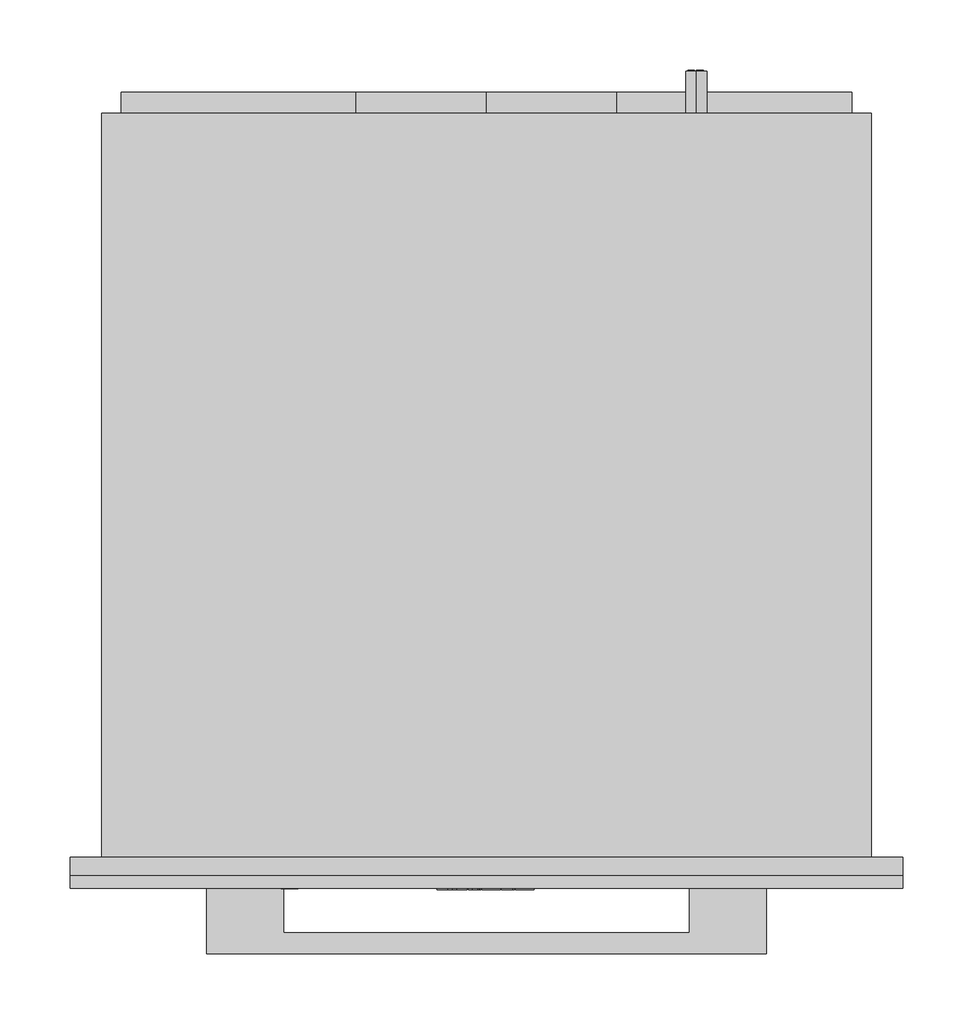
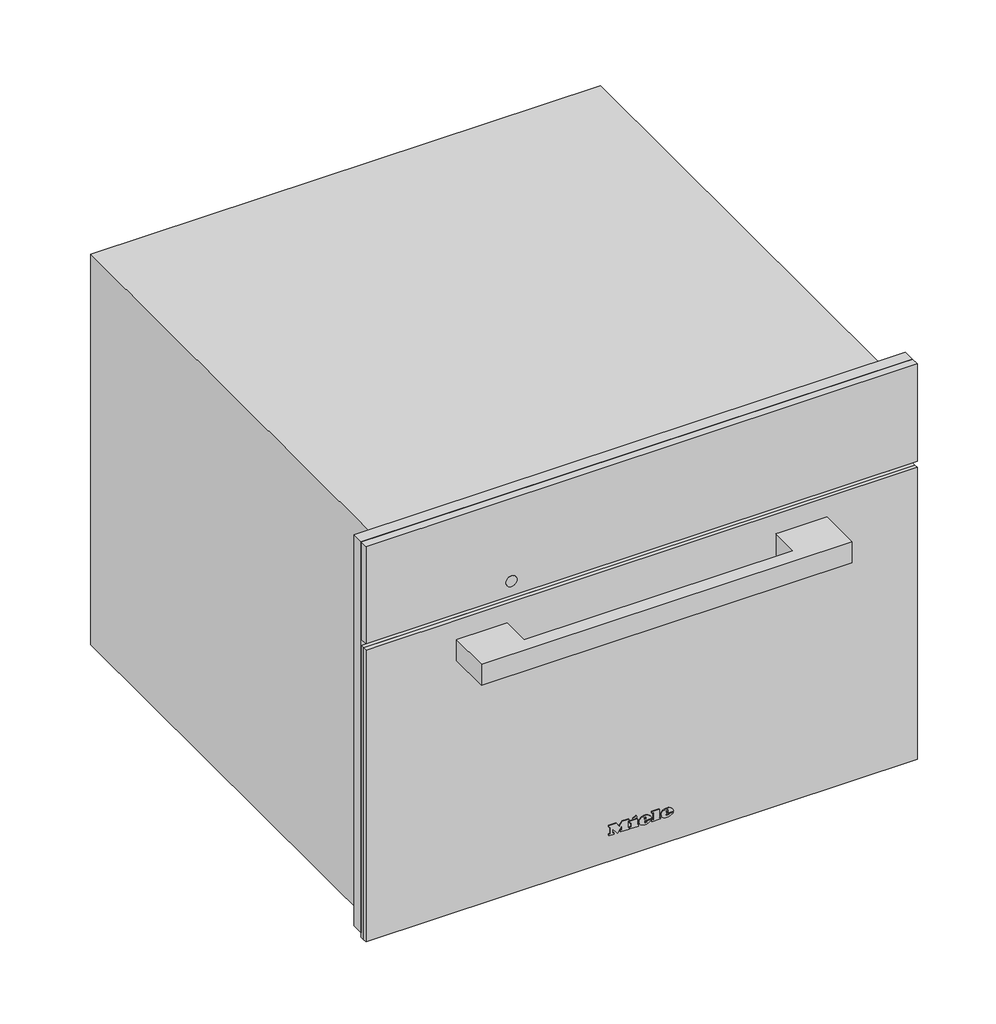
# Not in any storey: 1 proxy.
"""IFC4 building model written with IfcOpenShell, lengths in millimetres."""

import ifcopenshell
import ifcopenshell.guid

model = None  # the IFC model being written
_history = None  # IfcOwnerHistory: only IFC2X3 demands one
_inside = {}  # id of a spatial element -> (the spatial element, [elements in it])
_under = {}  # id of a project, library or spatial element -> (it, [spatial elements below it])
_declared = {}  # id of a project -> (the project, [libraries it declares])
_typed = {}  # id of a type object -> (the type object, [elements of that type])
_made_of = {}  # id of a material, layer set ... -> (it, [elements and type objects made of it])


def new_model(schema):
    """Start an empty IFC model of exactly this schema.

    Asked for "IFC4X3", IfcOpenShell would pick the latest addendum, in which some entities
    have other attributes; the version numbers below select the first issue.
    IFC2X3 requires an IfcOwnerHistory on every rooted entity: one is made here for all.
    """
    global model, _history
    if schema == "IFC4X3":
        model = ifcopenshell.file(schema_version=(4, 3, 0, 0))
    else:
        model = ifcopenshell.file(schema=schema)
    _inside.clear()
    _under.clear()
    _declared.clear()
    _typed.clear()
    _made_of.clear()
    _history = None
    if model.schema == "IFC2X3":
        org = make("IfcOrganization", Name="unknown")
        user = make(
            "IfcPersonAndOrganization",
            ThePerson=make("IfcPerson", FamilyName="unknown"),
            TheOrganization=org,
        )
        app = make(
            "IfcApplication",
            ApplicationDeveloper=org,
            Version="unknown",
            ApplicationFullName="unknown",
            ApplicationIdentifier="unknown",
        )
        _history = make(
            "IfcOwnerHistory",
            OwningUser=user,
            OwningApplication=app,
            ChangeAction="ADDED",
            CreationDate=0,
        )
    return model


def make(cls, **values):
    """One entity of the class cls with the attributes given. An attribute that is None is left unset."""
    return model.create_entity(
        cls, **{name: value for name, value in values.items() if value is not None}
    )


def rooted(cls, **values):
    """An entity with a GlobalId (a new one), such as an element, a storey or a relation."""
    return make(cls, GlobalId=ifcopenshell.guid.new(), OwnerHistory=_history, **values)


def si_unit(unit_type, name, prefix=None):
    """IfcSIUnit, for example si_unit("LENGTHUNIT", "METRE", prefix="MILLI")."""
    return make("IfcSIUnit", UnitType=unit_type, Prefix=prefix, Name=name)


def assignment(units):
    """IfcUnitAssignment: the units of a project."""
    return None if units is None else make("IfcUnitAssignment", Units=units)


def point(xyz):
    """IfcCartesianPoint."""
    return None if xyz is None else make("IfcCartesianPoint", Coordinates=xyz)


def direction(xyz):
    """IfcDirection."""
    return None if xyz is None else make("IfcDirection", DirectionRatios=xyz)


def frame(location, z_axis=None, x_axis=None):
    """IfcAxis2Placement3D, a coordinate frame: its origin and axes. An axis left out is left unset."""
    return make(
        "IfcAxis2Placement3D",
        Location=point(location),
        Axis=direction(z_axis),
        RefDirection=direction(x_axis),
    )


def frame_2d(location, x_axis=None):
    """IfcAxis2Placement2D, a coordinate frame in the plane: its origin and x axis."""
    return make(
        "IfcAxis2Placement2D", Location=point(location), RefDirection=direction(x_axis)
    )


def origin():
    """The frame at (0, 0, 0) with its axes left unset."""
    return frame((0.0, 0.0, 0.0))


def place(relative_to, where):
    """IfcLocalPlacement: puts the frame where relative to a parent placement (None: the world)."""
    return make(
        "IfcLocalPlacement", PlacementRelTo=relative_to, RelativePlacement=where
    )


def context(
    kind, dimensions, precision=None, world=None, true_north=None, identifier=None
):
    """IfcGeometricRepresentationContext, for example the 3D "Model" context."""
    return make(
        "IfcGeometricRepresentationContext",
        ContextIdentifier=identifier,
        ContextType=kind,
        CoordinateSpaceDimension=dimensions,
        Precision=precision,
        WorldCoordinateSystem=world,
        TrueNorth=true_north,
    )


def project(units=None, contexts=None):
    """IfcProject with its units and contexts."""
    return rooted(
        "IfcProject",
        Name="project",
        RepresentationContexts=contexts,
        UnitsInContext=assignment(units),
    )


def spatial(cls, under=None, at=None, **own):
    """A site, building, storey or space (cls), placed at a placement, below another one or the project."""
    s = rooted(cls, ObjectPlacement=at, **own)
    if under is not None:
        _under.setdefault(under.id(), (under, []))[1].append(s)
    return s


def polyline(points):
    """IfcPolyline through the points."""
    return make("IfcPolyline", Points=[point(p) for p in points])


def circle_curve(where, radius):
    """IfcCircle in the frame where."""
    return make("IfcCircle", Position=where, Radius=radius)


def ellipse_curve(where, semi_axis1, semi_axis2):
    """IfcEllipse in the frame where."""
    return make(
        "IfcEllipse", Position=where, SemiAxis1=semi_axis1, SemiAxis2=semi_axis2
    )


def trimmed(basis, trim1, trim2, sense, master):
    """IfcTrimmedCurve: the piece of a basis curve between two trims."""
    return make(
        "IfcTrimmedCurve",
        BasisCurve=basis,
        Trim1=trim1,
        Trim2=trim2,
        SenseAgreement=sense,
        MasterRepresentation=master,
    )


def segment(curve, same_sense, transition):
    """IfcCompositeCurveSegment."""
    return make(
        "IfcCompositeCurveSegment",
        Transition=transition,
        SameSense=same_sense,
        ParentCurve=curve,
    )


def composite_curve(segments, self_intersect=None):
    """IfcCompositeCurve: segments joined end to end."""
    return make("IfcCompositeCurve", Segments=segments, SelfIntersect=self_intersect)


def outline(outer, holes=None, kind="AREA"):
    """IfcArbitraryClosedProfileDef: a profile drawn as a closed curve; with holes, ...WithVoids."""
    if holes is None:
        return make("IfcArbitraryClosedProfileDef", ProfileType=kind, OuterCurve=outer)
    return make(
        "IfcArbitraryProfileDefWithVoids",
        ProfileType=kind,
        OuterCurve=outer,
        InnerCurves=holes,
    )


def extrude(swept, where, along, depth):
    """IfcExtrudedAreaSolid: the profile swept, set in the frame where, extruded along a direction by depth."""
    return make(
        "IfcExtrudedAreaSolid",
        SweptArea=swept,
        Position=where,
        ExtrudedDirection=direction(along),
        Depth=depth,
    )


def faces_of(points, faces, orient=None, outer=None):
    """IfcFace entities. A face is a list of loops; a loop is a list of indices into points, from 0.

    orient and outer hold one flag for each loop. By default every Orientation is true, the
    first loop of a face is its IfcFaceOuterBound and the others are IfcFaceBound.
    """
    made = []
    for i, loops in enumerate(faces):
        bounds = []
        for j, loop in enumerate(loops):
            is_outer = j == 0 if outer is None else outer[i][j]
            bounds.append(
                make(
                    "IfcFaceOuterBound" if is_outer else "IfcFaceBound",
                    Bound=make("IfcPolyLoop", Polygon=[points[k] for k in loop]),
                    Orientation=True if orient is None else orient[i][j],
                )
            )
        made.append(make("IfcFace", Bounds=bounds))
    return made


def faceted_brep(points, faces, orient=None, outer=None, voids=None):
    """IfcFacetedBrep: a solid bounded by flat faces; with voids (closed shells), ...WithVoids."""
    shared = [point(p) for p in points]
    hull = make("IfcClosedShell", CfsFaces=faces_of(shared, faces, orient, outer))
    if voids is None:
        return make("IfcFacetedBrep", Outer=hull)
    return make(
        "IfcFacetedBrepWithVoids",
        Outer=hull,
        Voids=[
            make(cls, CfsFaces=faces_of(shared, fs, o, b)) for cls, fs, o, b in voids
        ],
    )


def shape(context_of_items, identifier, shape_type, items):
    """IfcShapeRepresentation: the items that make up one representation, for example the "Body"."""
    return make(
        "IfcShapeRepresentation",
        ContextOfItems=context_of_items,
        RepresentationIdentifier=identifier,
        RepresentationType=shape_type,
        Items=items,
    )


def source(mapping_origin, context_of_items, identifier, shape_type, items):
    """IfcRepresentationMap: a shape defined once, which mapped items show again and again."""
    return make(
        "IfcRepresentationMap",
        MappingOrigin=mapping_origin,
        MappedRepresentation=shape(context_of_items, identifier, shape_type, items),
    )


def transform(
    local_origin,
    x_axis=None,
    y_axis=None,
    z_axis=None,
    scale=None,
    scale2=None,
    scale3=None,
    uniform=True,
):
    """IfcCartesianTransformationOperator3D, or its non-uniform kind. x_axis, y_axis, z_axis: its Axis1, 2, 3."""
    if uniform:
        return make(
            "IfcCartesianTransformationOperator3D",
            Axis1=direction(x_axis),
            Axis2=direction(y_axis),
            LocalOrigin=point(local_origin),
            Scale=scale,
            Axis3=direction(z_axis),
        )
    return make(
        "IfcCartesianTransformationOperator3DnonUniform",
        Axis1=direction(x_axis),
        Axis2=direction(y_axis),
        LocalOrigin=point(local_origin),
        Scale=scale,
        Axis3=direction(z_axis),
        Scale2=scale2,
        Scale3=scale3,
    )


def mapped(mapping_source, mapping_target):
    """IfcMappedItem: shows the shape of a source again, moved by a transform."""
    return make(
        "IfcMappedItem", MappingSource=mapping_source, MappingTarget=mapping_target
    )


def made_of(thing, what):
    """Note that an element or type object is made of a material, layer set ...; save() writes the relation."""
    if what is not None:
        _made_of.setdefault(what.id(), (what, []))[1].append(thing)
    return thing


def element(
    cls,
    number,
    at=None,
    inside=None,
    cuts=None,
    type_object=None,
    material=None,
    context=None,
    identifier="Body",
    shape_type=None,
    held_by="IfcProductDefinitionShape",
    body=None,
    shapes=None,
    **own,
):
    """One element of the class cls, such as IfcWall. Its Tag is "e" and its number.

    at: its placement. inside: the storey or other place that contains it. cuts: it is an
    opening in that element (IfcRelVoidsElement). A single representation is given by context,
    identifier, shape_type and body (its items); several are given by shapes. held_by: the class
    of the entity that holds the representations. save() writes the other relations.
    """
    e = rooted(cls, Tag="e%d" % number, ObjectPlacement=at, **own)
    if body is not None:
        shapes = [shape(context, identifier, shape_type, body)]
    if shapes is not None:
        e.Representation = make(held_by, Representations=shapes)
    if inside is not None:
        _inside.setdefault(inside.id(), (inside, []))[1].append(e)
    if cuts is not None:
        rooted(
            "IfcRelVoidsElement", RelatingBuildingElement=cuts, RelatedOpeningElement=e
        )
    if type_object is not None:
        _typed.setdefault(type_object.id(), (type_object, []))[1].append(e)
    return made_of(e, material)


def aggregate(whole, parts):
    """IfcRelAggregates: a whole, such as a stair, and the parts it consists of."""
    return rooted("IfcRelAggregates", RelatingObject=whole, RelatedObjects=parts)


def save(model, path):
    """Write the relations noted so far, then the file.

    IfcRelAggregates (storeys below a building ...), IfcRelContainedInSpatialStructure (elements
    in a storey), IfcRelDefinesByType, IfcRelAssociatesMaterial and IfcRelDeclares: one each for
    every whole, place, type object, material and project.
    """
    for whole, parts in _under.values():
        aggregate(whole, parts)
    for where, things in _inside.values():
        rooted(
            "IfcRelContainedInSpatialStructure",
            RelatedElements=things,
            RelatingStructure=where,
        )
    for kind, things in _typed.values():
        rooted("IfcRelDefinesByType", RelatedObjects=things, RelatingType=kind)
    for what, things in _made_of.values():
        rooted("IfcRelAssociatesMaterial", RelatedObjects=things, RelatingMaterial=what)
    for by, libraries in _declared.values():
        rooted("IfcRelDeclares", RelatingContext=by, RelatedDefinitions=libraries)
    model.write(path)


def plane_surface(at):
    """IfcPlane: the flat surface through the origin of the frame at, square to its z axis."""
    return make("IfcPlane", Position=at)


def cylinder_surface(at, radius):
    """IfcCylindricalSurface: all points at the distance radius from the z axis of the frame at."""
    return make("IfcCylindricalSurface", Position=at, Radius=radius)


def revolved_surface(curve, axis_point, axis_direction):
    """IfcSurfaceOfRevolution: the curve turned about the line through axis_point along axis_direction."""
    return make(
        "IfcSurfaceOfRevolution",
        SweptCurve=make("IfcArbitraryOpenProfileDef", ProfileType="CURVE", Curve=curve),
        AxisPosition=make("IfcAxis1Placement", Location=point(axis_point), Axis=direction(axis_direction)),
    )


def extruded_surface(curve, direction_of_extrusion, depth):
    """IfcSurfaceOfLinearExtrusion: the curve pushed along a direction by depth."""
    return make(
        "IfcSurfaceOfLinearExtrusion",
        SweptCurve=make("IfcArbitraryOpenProfileDef", ProfileType="CURVE", Curve=curve),
        ExtrudedDirection=direction(direction_of_extrusion),
        Depth=depth,
    )


def advanced_brep(points, edges, surfaces, faces):
    """IfcAdvancedBrep: a solid bounded by faces that lie on surfaces and meet in shared edges.

    An edge is (start, end): straight between two places in points (the first is 0);
    or (start, end, curve); or (start, end, curve, False) where it runs against its curve.
    A face is (place in surfaces, loops), or (place, loops, False) where it looks against
    its surface's normal. A loop lists edges by number (the first is 1), with a minus sign
    where the edge is run from its end to its start. The first loop is the outer one.
    """
    corners = [point(p) for p in points]
    vertices = [make("IfcVertexPoint", VertexGeometry=c) for c in corners]
    made = []
    for start, end, *more in edges:
        made.append(
            make(
                "IfcEdgeCurve",
                EdgeStart=vertices[start],
                EdgeEnd=vertices[end],
                EdgeGeometry=more[0] if more else make("IfcPolyline", Points=[corners[start], corners[end]]),
                SameSense=more[1] if len(more) > 1 else True,
            )
        )
    hull = []
    for where, loops, *sense in faces:
        bounds = []
        for j, loop in enumerate(loops):
            ring = [make("IfcOrientedEdge", EdgeElement=made[abs(k) - 1], Orientation=k > 0) for k in loop]
            bounds.append(
                make(
                    "IfcFaceOuterBound" if j == 0 else "IfcFaceBound",
                    Bound=make("IfcEdgeLoop", EdgeList=ring),
                    Orientation=True,
                )
            )
        hull.append(make("IfcAdvancedFace", Bounds=bounds, FaceSurface=surfaces[where], SameSense=sense[0] if sense else True))
    return make("IfcAdvancedBrep", Outer=make("IfcClosedShell", CfsFaces=hull))


def specialty_equipment_cbaed3e9(model_context):
    return source(origin(), model_context, "Body", "SolidModel", [
        extrude(outline(polyline([(455.0, 297.5), (455.0, -297.5), (9.0, -297.5), (9.0, -272.5), (344.0, -272.5), (344.0, 272.5), (9.0, 272.5), (9.0, 297.5), (455.0, 297.5)])), frame((0.0, -13.0, 0.0), z_axis=(0.0, 1.0, 0.0), x_axis=(0.0, 0.0, 1.0)), (0.0, 0.0, 1.0), 13.0),
        advanced_brep(
        [(150.0, 561.0, 410.5), (150.0, 561.0, 395.5), (144.4098301, 561.0, 398.0), (148.5, 561.0, 398.0), (148.5, 561.0, 408.0), (147.4955303, 561.0, 408.0), (147.4955303, 561.0, 399.0), (144.0315043, 561.0, 399.0), (144.0315043, 561.0, 398.4582978), (155.0, 561.0, 398.0), (155.0, 561.0, 408.0), (150.0, 561.0, 408.0), (150.0, 561.0, 407.0), (154.0, 561.0, 407.0), (154.0, 561.0, 403.5), (151.0, 561.0, 403.5), (151.0, 561.0, 402.5), (154.0, 561.0, 402.5), (154.0, 561.0, 399.0), (150.0, 561.0, 399.0), (150.0, 561.0, 398.0), (150.0, 531.0, 395.5), (150.0, 531.0, 410.5), (155.0, 562.0, 408.0), (155.0, 562.0, 398.0), (150.0, 562.0, 398.0), (150.0, 562.0, 399.0), (154.0, 562.0, 399.0), (154.0, 562.0, 402.5), (151.0, 562.0, 402.5), (151.0, 562.0, 403.5), (154.0, 562.0, 403.5), (154.0, 562.0, 407.0), (150.0, 562.0, 407.0), (150.0, 562.0, 408.0), (148.5, 562.0, 398.0), (144.0315043, 562.0, 398.0), (144.0315043, 562.0, 399.0), (147.4955303, 562.0, 399.0), (147.4955303, 562.0, 408.0), (148.5, 562.0, 408.0), (144.0315043, 561.0, 398.0)],
        [
            (0, 1, circle_curve(frame((150.0, 561.0, 403.0), z_axis=(0.0, 1.0, 0.0), x_axis=(0.0, 0.0, 1.0)), 7.5)),
            (1, 2, circle_curve(frame((150.0, 561.0, 403.0), z_axis=(0.0, 1.0, 0.0), x_axis=(0.0, 0.0, 1.0)), 7.5)),
            (2, 3),
            (3, 4),
            (4, 5),
            (5, 6),
            (6, 7),
            (7, 8),
            (8, 0, circle_curve(frame((150.0, 561.0, 403.0), z_axis=(0.0, 1.0, 0.0), x_axis=(0.0, 0.0, 1.0)), 7.5)),
            (9, 10),
            (10, 11),
            (11, 12),
            (12, 13),
            (13, 14),
            (14, 15),
            (15, 16),
            (16, 17),
            (17, 18),
            (18, 19),
            (19, 20),
            (20, 9),
            (21, 22, circle_curve(frame((150.0, 531.0, 403.0), z_axis=(0.0, -1.0, 0.0), x_axis=(0.0, 0.0, 1.0)), 7.5)),
            (22, 21, circle_curve(frame((150.0, 531.0, 403.0), z_axis=(0.0, -1.0, 0.0), x_axis=(0.0, 0.0, 1.0)), 7.5)),
            (0, 22),
            (21, 1),
            (8, 2, circle_curve(frame((150.0, 561.0, 403.0), z_axis=(0.0, -1.0, 0.0), x_axis=(0.0, 0.0, 1.0)), 7.5)),
            (23, 24),
            (24, 25),
            (25, 26),
            (26, 27),
            (27, 28),
            (28, 29),
            (29, 30),
            (30, 31),
            (31, 32),
            (32, 33),
            (33, 34),
            (34, 23),
            (35, 36),
            (36, 37),
            (37, 38),
            (38, 39),
            (39, 40),
            (40, 35),
            (8, 41),
            (41, 2),
            (23, 10),
            (9, 24),
            (20, 25),
            (19, 26),
            (18, 27),
            (17, 28),
            (16, 29),
            (15, 30),
            (14, 31),
            (13, 32),
            (12, 33),
            (11, 34),
            (35, 3),
            (41, 36),
            (7, 37),
            (6, 38),
            (5, 39),
            (4, 40),
        ],
        [
            plane_surface(frame((150.0, 561.0, 410.5), z_axis=(0.0, 1.0, 0.0), x_axis=(1.0, 0.0, 0.0))),
            plane_surface(frame((150.0, 531.0, 410.5), z_axis=(0.0, -1.0, 0.0), x_axis=(-1.0, 0.0, 0.0))),
            cylinder_surface(frame((150.0, 561.0, 403.0), z_axis=(0.0, -1.0, 0.0), x_axis=(0.0, 0.0, 1.0)), 7.5),
            plane_surface(frame((155.0, 562.0, 408.0), z_axis=(0.0, 1.0, 0.0), x_axis=(0.0, 0.0, -1.0))),
            plane_surface(frame((155.0, 561.0, 408.0), z_axis=(0.0, -1.0, 0.0), x_axis=(0.0, 0.0, 1.0))),
            plane_surface(frame((155.0, 562.0, 408.0), z_axis=(1.0, 0.0, 0.0), x_axis=(0.0, -1.0, 0.0))),
            plane_surface(frame((155.0, 562.0, 398.0), z_axis=(0.0, 0.0, -1.0), x_axis=(0.0, -1.0, 0.0))),
            plane_surface(frame((150.0, 562.0, 398.0), z_axis=(-1.0, 0.0, 0.0), x_axis=(0.0, -1.0, 0.0))),
            plane_surface(frame((150.0, 562.0, 399.0), z_axis=(0.0, 0.0, 1.0), x_axis=(0.0, -1.0, 0.0))),
            plane_surface(frame((154.0, 562.0, 399.0), z_axis=(-1.0, 0.0, 0.0), x_axis=(0.0, -1.0, 0.0))),
            plane_surface(frame((154.0, 562.0, 402.5), z_axis=(0.0, 0.0, -1.0), x_axis=(0.0, -1.0, 0.0))),
            plane_surface(frame((151.0, 562.0, 402.5), z_axis=(-1.0, 0.0, 0.0), x_axis=(0.0, -1.0, 0.0))),
            plane_surface(frame((151.0, 562.0, 403.5), z_axis=(0.0, 0.0, 1.0), x_axis=(0.0, -1.0, 0.0))),
            plane_surface(frame((154.0, 562.0, 403.5), z_axis=(-1.0, 0.0, 0.0), x_axis=(0.0, -1.0, 0.0))),
            plane_surface(frame((154.0, 562.0, 407.0), z_axis=(0.0, 0.0, -1.0), x_axis=(0.0, -1.0, 0.0))),
            plane_surface(frame((150.0, 562.0, 407.0), z_axis=(-1.0, 0.0, 0.0), x_axis=(0.0, -1.0, 0.0))),
            plane_surface(frame((150.0, 562.0, 408.0), z_axis=(0.0, 0.0, 1.0), x_axis=(0.0, -1.0, 0.0))),
            plane_surface(frame((148.5, 562.0, 398.0), z_axis=(0.0, 0.0, -1.0), x_axis=(0.0, -1.0, 0.0))),
            plane_surface(frame((144.0315043, 562.0, 398.0), z_axis=(-1.0, 0.0, 0.0), x_axis=(0.0, -1.0, 0.0))),
            plane_surface(frame((144.0315043, 562.0, 399.0), z_axis=(0.0, 0.0, 1.0), x_axis=(0.0, -1.0, 0.0))),
            plane_surface(frame((147.4955303, 562.0, 399.0), z_axis=(-1.0, 0.0, 0.0), x_axis=(0.0, -1.0, 0.0))),
            plane_surface(frame((147.4955303, 562.0, 408.0), z_axis=(0.0, 0.0, 1.0), x_axis=(0.0, -1.0, 0.0))),
            plane_surface(frame((148.5, 562.0, 408.0), z_axis=(1.0, 0.0, 0.0), x_axis=(0.0, -1.0, 0.0))),
        ],
        [
            (0, [[1, 2, 3, 4, 5, 6, 7, 8, 9], [10, 11, 12, 13, 14, 15, 16, 17, 18, 19, 20, 21]]),
            (1, [[22, 23]]),
            (2, [[-1, 24, -22, 25]]),
            (2, [[-23, -24, -9, 26, -2, -25]]),
            (3, [[27, 28, 29, 30, 31, 32, 33, 34, 35, 36, 37, 38]]),
            (3, [[39, 40, 41, 42, 43, 44]]),
            (4, [[45, 46, -26]]),
            (5, [[-27, 47, -10, 48]]),
            (6, [[-28, -48, -21, 49]]),
            (7, [[-29, -49, -20, 50]]),
            (8, [[-30, -50, -19, 51]]),
            (9, [[-31, -51, -18, 52]]),
            (10, [[-32, -52, -17, 53]]),
            (11, [[-33, -53, -16, 54]]),
            (12, [[-34, -54, -15, 55]]),
            (13, [[-35, -55, -14, 56]]),
            (14, [[-36, -56, -13, 57]]),
            (15, [[-37, -57, -12, 58]]),
            (16, [[-38, -58, -11, -47]]),
            (17, [[-39, 59, -3, -46, 60]]),
            (18, [[-40, -60, -45, -8, 61]]),
            (19, [[-41, -61, -7, 62]]),
            (20, [[-42, -62, -6, 63]]),
            (21, [[-43, -63, -5, 64]]),
            (22, [[-44, -64, -4, -59]]),
        ],
    ),
        extrude(outline(polyline([(299.0, -93.0), (258.0, -93.0), (258.0, -261.0), (111.0, -261.0), (111.0, -93.0), (70.0, -93.0), (70.0, 0.0), (70.0, 93.0), (111.0, 93.0), (111.0, 261.0), (258.0, 261.0), (258.0, 93.0), (299.0, 93.0), (299.0, 0.0), (299.0, -93.0)])), frame((0.0, 531.0, 0.0), z_axis=(0.0, 1.0, 0.0), x_axis=(0.0, 0.0, 1.0)), (0.0, 0.0, 1.0), 15.0),
        faceted_brep([(275.0, 531.0, 445.0), (275.0, 531.0, 0.0), (-275.0, 531.0, 0.0), (-275.0, 531.0, 445.0), (275.0, 0.0, 445.0), (-275.0, 0.0, 445.0), (-275.0, 0.0, 0.0), (275.0, 0.0, 0.0), (-272.5, 0.0, 344.0), (272.5, 0.0, 344.0), (272.5, 0.0, 8.0), (-272.5, 0.0, 8.0), (272.5, 34.0, 344.0), (-272.5, 34.0, 344.0), (-272.5, 34.0, 8.0), (272.5, 34.0, 8.0), (161.0, 34.0, 286.0), (161.0, 34.0, 58.0), (-220.0, 34.0, 58.0), (-220.0, 34.0, 286.0), (161.0, 444.0, 286.0), (-220.0, 444.0, 286.0), (-220.0, 444.0, 58.0), (161.0, 444.0, 58.0)], [[[0, 1, 2, 3]], [[4, 5, 6, 7], [8, 9, 10, 11]], [[0, 3, 5, 4]], [[3, 2, 6, 5]], [[2, 1, 7, 6]], [[1, 0, 4, 7]], [[12, 13, 14, 15], [16, 17, 18, 19]], [[13, 12, 9, 8]], [[14, 13, 8, 11]], [[15, 14, 11, 10]], [[12, 15, 10, 9]], [[20, 21, 22, 23]], [[20, 23, 17, 16]], [[23, 22, 18, 17]], [[22, 21, 19, 18]], [[21, 20, 16, 19]]]),
        advanced_brep(
        [(26.2998, -23.0, 36.7018), (26.2998, -23.0, 37.8532), (33.9264, -23.0, 37.8532), (20.6568, -23.0, 37.8532), (23.7918, -23.0, 34.0), (33.7326, -23.0, 36.7018), (30.2898, -23.0, 36.7018), (27.5766, -23.0, 35.425), (26.2998, -23.0, 39.3124), (26.2998, -23.0, 40.555), (28.2492, -23.0, 40.555), (28.2492, -23.0, 39.3124), (26.2998, -22.0, 36.7018), (27.5766, -22.0, 35.425), (30.2898, -22.0, 36.7018), (33.7326, -22.0, 36.7018), (23.7918, -22.0, 34.0), (20.6568, -22.0, 37.8532), (33.9264, -22.0, 37.8532), (26.2998, -22.0, 37.8532), (26.2998, -22.0, 39.3124), (28.2492, -22.0, 39.3124), (28.2492, -22.0, 40.555), (26.2998, -22.0, 40.555)],
        [
            (0, 1),
            (1, 2),
            (2, 3, ellipse_curve(frame((27.2916, -23.0, 37.8532), z_axis=(0.0, -1.0, 0.0), x_axis=(-1.0, 0.0, 0.0)), 6.6348, 5.4834)),
            (3, 4, circle_curve(frame((25.0686622, -23.0, 38.2408), z_axis=(0.0, -1.0, 0.0), x_axis=(0.0, 0.0, -1.0)), 4.4288556)),
            (4, 5, circle_curve(frame((27.1587808, -23.0, 41.2504), z_axis=(0.0, -1.0, 0.0), x_axis=(0.0, 0.0, -1.0)), 7.9940516)),
            (5, 6),
            (6, 7, circle_curve(frame((28.1338588, -23.0, 37.762), z_axis=(0.0, 1.0, 0.0), x_axis=(0.0, 0.0, -1.0)), 2.4025208)),
            (7, 0, circle_curve(frame((27.5766, -23.0, 36.7018), z_axis=(0.0, 1.0, 0.0), x_axis=(0.0, 0.0, -1.0)), 1.2768)),
            (8, 9),
            (9, 10, circle_curve(frame((27.2745, -23.0, 40.555), z_axis=(0.0, 1.0, 0.0), x_axis=(0.0, 0.0, -1.0)), 0.9747)),
            (10, 11),
            (11, 8),
            (12, 13, circle_curve(frame((27.5766, -22.0, 36.7018), z_axis=(0.0, -1.0, 0.0), x_axis=(0.0, 0.0, -1.0)), 1.2768)),
            (13, 14, circle_curve(frame((28.1338588, -22.0, 37.762), z_axis=(0.0, -1.0, 0.0), x_axis=(0.0, 0.0, -1.0)), 2.4025208)),
            (14, 15),
            (15, 16, circle_curve(frame((27.1587808, -22.0, 41.2504), z_axis=(0.0, 1.0, 0.0), x_axis=(0.0, 0.0, -1.0)), 7.9940516)),
            (16, 17, circle_curve(frame((25.0686622, -22.0, 38.2408), z_axis=(0.0, 1.0, 0.0), x_axis=(0.0, 0.0, -1.0)), 4.4288556)),
            (17, 18, ellipse_curve(frame((27.2916, -22.0, 37.8532), z_axis=(0.0, 1.0, 0.0), x_axis=(-1.0, 0.0, 0.0)), 6.6348, 5.4834)),
            (18, 19),
            (19, 12),
            (20, 21),
            (21, 22),
            (22, 23, circle_curve(frame((27.2745, -22.0, 40.555), z_axis=(0.0, -1.0, 0.0), x_axis=(0.0, 0.0, -1.0)), 0.9747)),
            (23, 20),
            (0, 12),
            (19, 1),
            (18, 2),
            (5, 15),
            (14, 6),
            (17, 3),
            (13, 7),
            (16, 4),
            (8, 20),
            (23, 9),
            (22, 10),
            (21, 11),
        ],
        [
            plane_surface(frame((26.2998, -23.0, 37.8532), z_axis=(0.0, -1.0, 0.0), x_axis=(0.0, 0.0, 1.0))),
            plane_surface(frame((26.2998, -22.0, 37.8532), z_axis=(0.0, 1.0, 0.0), x_axis=(0.0, 0.0, -1.0))),
            plane_surface(frame((26.2998, -23.0, 36.7018), z_axis=(1.0, 0.0, 0.0), x_axis=(0.0, 1.0, 0.0))),
            plane_surface(frame((26.2998, -23.0, 37.8532), z_axis=(0.0, 0.0, -1.0), x_axis=(0.0, 1.0, 0.0))),
            plane_surface(frame((33.7326, -23.0, 36.7018), z_axis=(0.0, 0.0, 1.0), x_axis=(0.0, 1.0, 0.0))),
            extruded_surface(trimmed(ellipse_curve(frame((27.2916, -21.0, 37.8532), z_axis=(0.0, -1.0, 0.0), x_axis=(-1.0, 0.0, 0.0)), 6.6348, 5.4834), [point((33.9264, -21.0, 37.8532))], [point((20.6568, -21.0, 37.8532))], True, "CARTESIAN"), (0.0, -1.0, 0.0), 1.0),
            revolved_surface(polyline([(28.1338588, -22.0, 35.3594792), (28.1338588, -23.0, 35.3594792)]), (28.1338588, -22.0, 37.762), (0.0, 1.0, 0.0)),
            revolved_surface(polyline([(27.5766, -22.0, 35.425), (27.5766, -23.0, 35.425)]), (27.5766, -22.0, 36.7018), (0.0, 1.0, 0.0)),
            cylinder_surface(frame((25.0686622, -22.0, 38.2408), z_axis=(0.0, -1.0, 0.0), x_axis=(0.0, 0.0, -1.0)), 4.4288556),
            cylinder_surface(frame((27.1587808, -22.0, 41.2504), z_axis=(0.0, -1.0, 0.0), x_axis=(0.0, 0.0, -1.0)), 7.9940516),
            plane_surface(frame((26.2998, -23.0, 39.3124), z_axis=(1.0, 0.0, 0.0), x_axis=(0.0, 1.0, 0.0))),
            revolved_surface(polyline([(27.2745, -22.0, 39.5803), (27.2745, -23.0, 39.5803)]), (27.2745, -22.0, 40.555), (0.0, 1.0, 0.0)),
            plane_surface(frame((28.2492, -23.0, 40.555), z_axis=(-1.0, 0.0, 0.0), x_axis=(0.0, 1.0, 0.0))),
            plane_surface(frame((28.2492, -23.0, 39.3124), z_axis=(0.0, 0.0, 1.0), x_axis=(0.0, 1.0, 0.0))),
        ],
        [
            (0, [[1, 2, 3, 4, 5, 6, 7, 8], [9, 10, 11, 12]]),
            (1, [[13, 14, 15, 16, 17, 18, 19, 20], [21, 22, 23, 24]]),
            (2, [[-1, 25, -20, 26]]),
            (3, [[-2, -26, -19, 27]]),
            (4, [[-6, 28, -15, 29]]),
            (5, [[-3, -27, -18, 30]]),
            (6, [[-7, -29, -14, 31]]),
            (7, [[-8, -31, -13, -25]]),
            (8, [[-4, -30, -17, 32]]),
            (9, [[-5, -32, -16, -28]]),
            (10, [[-9, 33, -24, 34]]),
            (11, [[-10, -34, -23, 35]]),
            (12, [[-11, -35, -22, 36]]),
            (13, [[-12, -36, -21, -33]]),
        ],
    ),
        advanced_brep(
        [(2.508, -23.0, 36.7018), (2.508, -23.0, 37.8532), (10.1346, -23.0, 37.8532), (-3.135, -23.0, 37.8532), (0.0, -23.0, 34.0), (9.9408, -23.0, 36.7018), (6.498, -23.0, 36.7018), (3.7848, -23.0, 35.425), (2.508, -23.0, 39.3124), (2.508, -23.0, 40.555), (4.4574, -23.0, 40.555), (4.4574, -23.0, 39.3124), (2.508, -22.0, 36.7018), (3.7848, -22.0, 35.425), (6.498, -22.0, 36.7018), (9.9408, -22.0, 36.7018), (0.0, -22.0, 34.0), (-3.135, -22.0, 37.8532), (10.1346, -22.0, 37.8532), (2.508, -22.0, 37.8532), (2.508, -22.0, 39.3124), (4.4574, -22.0, 39.3124), (4.4574, -22.0, 40.555), (2.508, -22.0, 40.555)],
        [
            (0, 1),
            (1, 2),
            (2, 3, ellipse_curve(frame((3.4998, -23.0, 37.8532), z_axis=(0.0, -1.0, 0.0), x_axis=(-1.0, 0.0, 0.0)), 6.6348, 5.4834)),
            (3, 4, circle_curve(frame((1.2768622, -23.0, 38.2408), z_axis=(0.0, -1.0, 0.0), x_axis=(0.0, 0.0, -1.0)), 4.4288556)),
            (4, 5, circle_curve(frame((3.3669808, -23.0, 41.2504), z_axis=(0.0, -1.0, 0.0), x_axis=(0.0, 0.0, -1.0)), 7.9940516)),
            (5, 6),
            (6, 7, circle_curve(frame((4.3420588, -23.0, 37.762), z_axis=(0.0, 1.0, 0.0), x_axis=(0.0, 0.0, -1.0)), 2.4025208)),
            (7, 0, circle_curve(frame((3.7848, -23.0, 36.7018), z_axis=(0.0, 1.0, 0.0), x_axis=(0.0, 0.0, -1.0)), 1.2768)),
            (8, 9),
            (9, 10, circle_curve(frame((3.4827, -23.0, 40.555), z_axis=(0.0, 1.0, 0.0), x_axis=(0.0, 0.0, -1.0)), 0.9747)),
            (10, 11),
            (11, 8),
            (12, 13, circle_curve(frame((3.7848, -22.0, 36.7018), z_axis=(0.0, -1.0, 0.0), x_axis=(0.0, 0.0, -1.0)), 1.2768)),
            (13, 14, circle_curve(frame((4.3420588, -22.0, 37.762), z_axis=(0.0, -1.0, 0.0), x_axis=(0.0, 0.0, -1.0)), 2.4025208)),
            (14, 15),
            (15, 16, circle_curve(frame((3.3669808, -22.0, 41.2504), z_axis=(0.0, 1.0, 0.0), x_axis=(0.0, 0.0, -1.0)), 7.9940516)),
            (16, 17, circle_curve(frame((1.2768622, -22.0, 38.2408), z_axis=(0.0, 1.0, 0.0), x_axis=(0.0, 0.0, -1.0)), 4.4288556)),
            (17, 18, ellipse_curve(frame((3.4998, -22.0, 37.8532), z_axis=(0.0, 1.0, 0.0), x_axis=(-1.0, 0.0, 0.0)), 6.6348, 5.4834)),
            (18, 19),
            (19, 12),
            (20, 21),
            (21, 22),
            (22, 23, circle_curve(frame((3.4827, -22.0, 40.555), z_axis=(0.0, -1.0, 0.0), x_axis=(0.0, 0.0, -1.0)), 0.9747)),
            (23, 20),
            (0, 12),
            (19, 1),
            (18, 2),
            (5, 15),
            (14, 6),
            (17, 3),
            (13, 7),
            (16, 4),
            (8, 20),
            (23, 9),
            (22, 10),
            (21, 11),
        ],
        [
            plane_surface(frame((2.508, -23.0, 37.8532), z_axis=(0.0, -1.0, 0.0), x_axis=(0.0, 0.0, 1.0))),
            plane_surface(frame((2.508, -22.0, 37.8532), z_axis=(0.0, 1.0, 0.0), x_axis=(0.0, 0.0, -1.0))),
            plane_surface(frame((2.508, -23.0, 36.7018), z_axis=(1.0, 0.0, 0.0), x_axis=(0.0, 1.0, 0.0))),
            plane_surface(frame((2.508, -23.0, 37.8532), z_axis=(0.0, 0.0, -1.0), x_axis=(0.0, 1.0, 0.0))),
            plane_surface(frame((9.9408, -23.0, 36.7018), z_axis=(0.0, 0.0, 1.0), x_axis=(0.0, 1.0, 0.0))),
            extruded_surface(trimmed(ellipse_curve(frame((3.4998, -21.0, 37.8532), z_axis=(0.0, -1.0, 0.0), x_axis=(-1.0, 0.0, 0.0)), 6.6348, 5.4834), [point((10.1346, -21.0, 37.8532))], [point((-3.135, -21.0, 37.8532))], True, "CARTESIAN"), (0.0, -1.0, 0.0), 1.0),
            revolved_surface(polyline([(4.3420588, -22.0, 35.3594792), (4.3420588, -23.0, 35.3594792)]), (4.3420588, -22.0, 37.762), (0.0, 1.0, 0.0)),
            revolved_surface(polyline([(3.7848, -22.0, 35.425), (3.7848, -23.0, 35.425)]), (3.7848, -22.0, 36.7018), (0.0, 1.0, 0.0)),
            cylinder_surface(frame((1.2768622, -22.0, 38.2408), z_axis=(0.0, -1.0, 0.0), x_axis=(0.0, 0.0, -1.0)), 4.4288556),
            cylinder_surface(frame((3.3669808, -22.0, 41.2504), z_axis=(0.0, -1.0, 0.0), x_axis=(0.0, 0.0, -1.0)), 7.9940516),
            plane_surface(frame((2.508, -23.0, 39.3124), z_axis=(1.0, 0.0, 0.0), x_axis=(0.0, 1.0, 0.0))),
            revolved_surface(polyline([(3.4827, -22.0, 39.5803), (3.4827, -23.0, 39.5803)]), (3.4827, -22.0, 40.555), (0.0, 1.0, 0.0)),
            plane_surface(frame((4.4574, -23.0, 40.555), z_axis=(-1.0, 0.0, 0.0), x_axis=(0.0, 1.0, 0.0))),
            plane_surface(frame((4.4574, -23.0, 39.3124), z_axis=(0.0, 0.0, 1.0), x_axis=(0.0, 1.0, 0.0))),
        ],
        [
            (0, [[1, 2, 3, 4, 5, 6, 7, 8], [9, 10, 11, 12]]),
            (1, [[13, 14, 15, 16, 17, 18, 19, 20], [21, 22, 23, 24]]),
            (2, [[-1, 25, -20, 26]]),
            (3, [[-2, -26, -19, 27]]),
            (4, [[-6, 28, -15, 29]]),
            (5, [[-3, -27, -18, 30]]),
            (6, [[-7, -29, -14, 31]]),
            (7, [[-8, -31, -13, -25]]),
            (8, [[-4, -30, -17, 32]]),
            (9, [[-5, -32, -16, -28]]),
            (10, [[-9, 33, -24, 34]]),
            (11, [[-10, -34, -23, 35]]),
            (12, [[-11, -35, -22, 36]]),
            (13, [[-12, -36, -21, -33]]),
        ],
    ),
        extrude(outline(polyline([(44.7274, -9.9522), (42.8806, -9.0858), (44.6818, -5.2212), (46.5286, -6.0762), (44.7274, -9.9522)])), frame((0.0, -23.0, 0.0), z_axis=(0.0, 1.0, 0.0), x_axis=(0.0, 0.0, 1.0)), (0.0, 0.0, 1.0), 1.0),
        extrude(outline(polyline([(42.6298, -12.768), (40.5892, -12.768), (40.5892, -11.4114), (35.9152, -11.4114), (35.9152, -12.768), (34.0, -12.768), (34.0, -3.7734), (35.9152, -3.7734), (35.9152, -5.0958), (42.6298, -5.0958), (42.6298, -12.768)])), frame((0.0, -23.0, 0.0), z_axis=(0.0, 1.0, 0.0), x_axis=(0.0, 0.0, 1.0)), (0.0, 0.0, 1.0), 1.0),
        extrude(outline(polyline([(43.5418, 10.773), (43.5418, 12.141), (35.9152, 12.141), (35.9152, 10.773), (34.0, 10.773), (34.0, 20.0184), (35.9152, 20.0184), (35.9152, 18.6162), (45.4, 18.6162), (45.4, 10.773), (43.5418, 10.773)])), frame((0.0, -23.0, 0.0), z_axis=(0.0, 1.0, 0.0), x_axis=(0.0, 0.0, 1.0)), (0.0, 0.0, 1.0), 1.0),
        extrude(outline(polyline([(43.5418, -35.4882), (43.5418, -34.1088), (35.9152, -34.1088), (35.9152, -35.4882), (34.0, -35.4882), (34.0, -30.4722), (35.9152, -30.4722), (35.9152, -31.8402), (40.7429247, -31.8402), (34.0, -26.7444), (40.9402223, -21.6258), (35.9152, -21.6258), (35.9152, -23.028), (34.0, -23.028), (34.0, -13.9308), (35.9152, -13.9308), (35.9152, -15.3786), (43.5418, -15.3786), (43.5418, -13.9308), (45.4, -13.9308), (45.4, -20.8734), (41.125, -24.2022), (45.4, -27.5424), (45.4, -35.4882), (43.5418, -35.4882)])), frame((0.0, -23.0, 0.0), z_axis=(0.0, 1.0, 0.0), x_axis=(0.0, 0.0, 1.0)), (0.0, 0.0, 1.0), 1.0),
        extrude(outline(polyline([(297.5, -22.0), (-297.5, -22.0), (-297.5, -13.0), (297.5, -13.0), (297.5, -22.0)])), frame((0.0, 0.0, 344.0), z_axis=(0.0, 0.0, 1.0), x_axis=(1.0, 0.0, 0.0)), (0.0, 0.0, 1.0), 111.0),
        extrude(outline(composite_curve([segment(trimmed(circle_curve(frame_2d((361.0, -140.5745637)), 6.0), [point((361.0, -146.5745637))], [point((361.0, -134.5745637))], False, "CARTESIAN"), True, "CONTINUOUS"), segment(trimmed(circle_curve(frame_2d((361.0, -140.5745637)), 6.0), [point((361.0, -134.5745637))], [point((361.0, -146.5745637))], False, "CARTESIAN"), True, "CONTINUOUS")], self_intersect=False)), frame((0.0, -22.5, 0.0), z_axis=(0.0, 1.0, 0.0), x_axis=(0.0, 0.0, 1.0)), (0.0, 0.0, 1.0), 1.0),
        extrude(outline(polyline([(-297.5, -18.0), (297.5, -18.0), (297.5, -22.0), (-297.5, -22.0), (-297.5, -18.0)])), frame((0.0, 0.0, 4.0), z_axis=(0.0, 0.0, 1.0), x_axis=(1.0, 0.0, 0.0)), (0.0, 0.0, 1.0), 333.0),
        extrude(outline(polyline([(297.5, -18.0), (-297.5, -18.0), (-297.5, -13.0), (297.5, -13.0), (297.5, -18.0)])), frame((0.0, 0.0, 4.0), z_axis=(0.0, 0.0, 1.0), x_axis=(1.0, 0.0, 0.0)), (0.0, 0.0, 1.0), 333.0),
        extrude(outline(polyline([(-200.0, -69.0), (-200.0, -22.0), (-145.0, -22.0), (-145.0, -54.0), (145.0, -54.0), (145.0, -22.0), (200.0, -22.0), (200.0, -69.0), (-200.0, -69.0)])), frame((0.0, 0.0, 291.0), z_axis=(0.0, 0.0, 1.0), x_axis=(1.0, 0.0, 0.0)), (0.0, 0.0, 1.0), 24.0),
    ])


model = new_model("IFC4")

# Units and contexts
model_context = context("Model", 3, world=origin())
ifc_project = project(units=[si_unit("LENGTHUNIT", "METRE", prefix="MILLI")], contexts=[model_context])

# Site, building
site = spatial("IfcSite", under=ifc_project)
building = spatial("IfcBuilding", under=site)

# Proxy
placement = place(None, origin())
specialty_equipment_shape = specialty_equipment_cbaed3e9(model_context)
element("IfcBuildingElementProxy", 1, Name="11146200_IB_DG7240_OBSW : 23724020_IB_11146200_DG7240_OBSW", ObjectType="11146200_IB_DG7240_OBSW : 23724020_IB_11146200_DG7240_OBSW", at=placement, inside=building, context=model_context, shape_type="MappedRepresentation", body=[
    mapped(specialty_equipment_shape, transform((0.0, 0.0, 0.0), x_axis=(1.0, 0.0, 0.0), y_axis=(0.0, 1.0, 0.0), z_axis=(0.0, 0.0, 1.0))),
])

save(model, "model.ifc")
